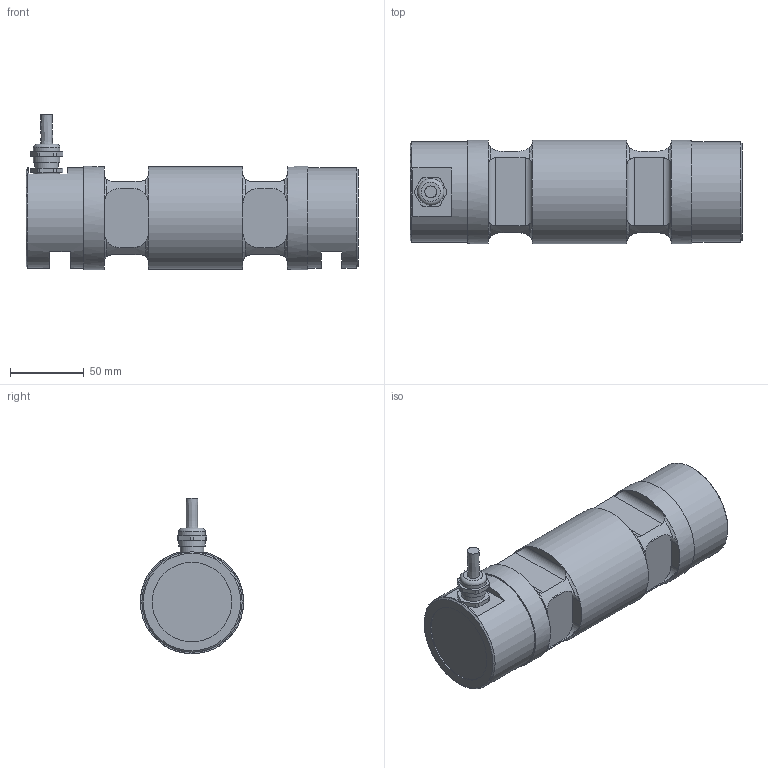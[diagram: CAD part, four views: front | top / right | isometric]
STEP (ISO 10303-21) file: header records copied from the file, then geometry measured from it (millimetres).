
FILE_DESCRIPTION(/* description */ ('Alibre Inc.'),/* implementation_level */ '2;1');
FILE_NAME(/* name */ 'export0',/* time_stamp */ '2014-05-23T09:10:17+02:00',/* author */ (''),/* organization */ (''),/* preprocessor_version */ 'ST-DEVELOPER v14',/* originating_system */ 'Alibre',/* authorisation */ '');
FILE_SCHEMA (('CONFIG_CONTROL_DESIGN'));
Length unit declared in the file: centimetre
Products named in the file (6): ID_1; ID_2; ID_3
Bounding box: 225 x 70 x 105.24 mm (x, y, z)
Volume: 767684.2 mm3; surface area: 65913.7 mm2
Topology: 4 solids, 4 shells, 148 faces, 355 edges, 224 vertices
Faces by surface type: plane 69, cylinder 57, torus 18, cone 3, bspline 1
Full cylindrical faces by diameter (mm): 8 x1, 10 x1, 14.376 x1, 16 x2, 18 x2, 54 x1, 68 x2, 70 x3
Entity records: 7968 total; most frequent: CARTESIAN_POINT 4486, ORIENTED_EDGE 654, DIRECTION 457, EDGE_CURVE 327, VERTEX_POINT 217, AXIS2_PLACEMENT_3D 193, FACE_BOUND 180, EDGE_LOOP 179
